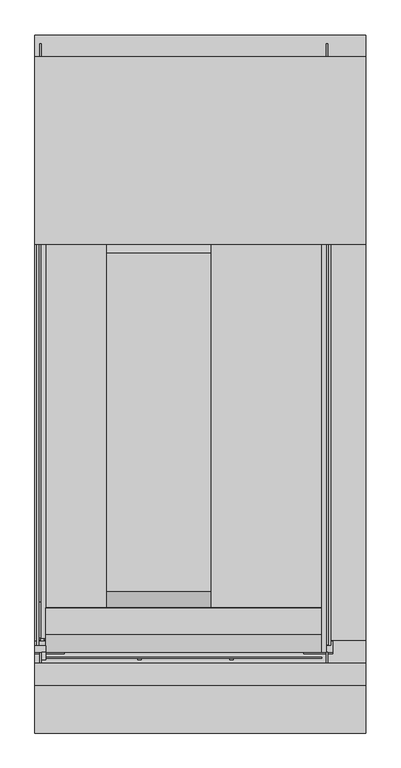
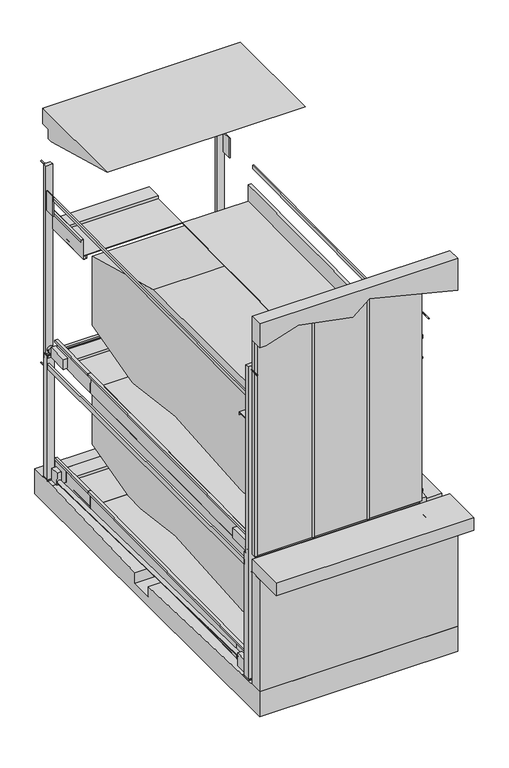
"""IFC4 building model written with IfcOpenShell, lengths in millimetres: proxy geometry, TrendVario_6300 : TrendVario_6300."""

from ifc_helpers import new_model, si_unit, point, frame, frame_2d, origin, origin_with_axes, place, context, project, spatial, polyline, circle_curve, trimmed, segment, composite_curve, outline, extrude, faceted_brep, source, transform, mapped, element, save
from ifc_brep_helpers import plane_surface, cylinder_surface, advanced_brep


def generic_models_72f7ff9a(model_context):
    return source(origin(), model_context, "Body", "SolidModel", [
        extrude(outline(composite_curve([segment(trimmed(circle_curve(frame_2d((-273.0, 50.2890841)), 6.0), [point((-273.0, 44.2890841))], [point((-273.0, 56.2890841))], False, "CARTESIAN"), True, "CONTINUOUS"), segment(trimmed(circle_curve(frame_2d((-273.0, 50.2890841)), 6.0), [point((-273.0, 56.2890841))], [point((-273.0, 44.2890841))], False, "CARTESIAN"), True, "CONTINUOUS")], self_intersect=False)), frame((0.0, 5472.5930875, 0.0), z_axis=(0.0, 1.0, 0.0), x_axis=(0.0, 0.0, 1.0)), (0.0, 0.0, 1.0), 150.0),
        extrude(outline(composite_curve([segment(trimmed(circle_curve(frame_2d((-273.0, 2650.0)), 6.0), [point((-267.0, 2650.0))], [point((-279.0, 2650.0))], False, "CARTESIAN"), True, "CONTINUOUS"), segment(trimmed(circle_curve(frame_2d((-273.0, 2650.0)), 6.0), [point((-279.0, 2650.0))], [point((-267.0, 2650.0))], False, "CARTESIAN"), True, "CONTINUOUS")], self_intersect=False)), frame((0.0, 5469.6007019, 0.0), z_axis=(0.0, 1.0, 0.0), x_axis=(0.0, 0.0, 1.0)), (0.0, 0.0, 1.0), 150.0),
        extrude(outline(composite_curve([segment(trimmed(circle_curve(frame_2d((-273.0, 2650.0)), 6.0), [point((-267.0, 2650.0))], [point((-279.0, 2650.0))], False, "CARTESIAN"), True, "CONTINUOUS"), segment(trimmed(circle_curve(frame_2d((-273.0, 2650.0)), 6.0), [point((-279.0, 2650.0))], [point((-267.0, 2650.0))], False, "CARTESIAN"), True, "CONTINUOUS")], self_intersect=False)), frame((0.0, -50.0, 0.0), z_axis=(0.0, 1.0, 0.0), x_axis=(0.0, 0.0, 1.0)), (0.0, 0.0, 1.0), 150.0),
        extrude(outline(composite_curve([segment(trimmed(circle_curve(frame_2d((-273.0, 50.0)), 6.0), [point((-273.0, 56.0))], [point((-273.0, 44.0))], False, "CARTESIAN"), True, "CONTINUOUS"), segment(trimmed(circle_curve(frame_2d((-273.0, 50.0)), 6.0), [point((-273.0, 44.0))], [point((-273.0, 56.0))], False, "CARTESIAN"), True, "CONTINUOUS")], self_intersect=False)), frame((0.0, -50.0, 0.0), z_axis=(0.0, 1.0, 0.0), x_axis=(0.0, 0.0, 1.0)), (0.0, 0.0, 1.0), 150.0),
        extrude(outline(composite_curve([segment(trimmed(circle_curve(frame_2d((145.0, 150.0)), 6.0), [point((139.0, 150.0))], [point((151.0, 150.0))], False, "CARTESIAN"), True, "CONTINUOUS"), segment(trimmed(circle_curve(frame_2d((145.0, 150.0)), 6.0), [point((151.0, 150.0))], [point((139.0, 150.0))], False, "CARTESIAN"), True, "CONTINUOUS")], self_intersect=False)), frame((0.0, 0.0, -2150.0), z_axis=(0.0, 0.0, 1.0), x_axis=(1.0, 0.0, 0.0)), (0.0, 0.0, 1.0), 150.0),
        extrude(outline(composite_curve([segment(trimmed(circle_curve(frame_2d((2555.0, 150.0)), 6.0), [point((2549.0, 150.0))], [point((2561.0, 150.0))], False, "CARTESIAN"), True, "CONTINUOUS"), segment(trimmed(circle_curve(frame_2d((2555.0, 150.0)), 6.0), [point((2561.0, 150.0))], [point((2549.0, 150.0))], False, "CARTESIAN"), True, "CONTINUOUS")], self_intersect=False)), frame((0.0, 0.0, -2150.0), z_axis=(0.0, 0.0, 1.0), x_axis=(1.0, 0.0, 0.0)), (0.0, 0.0, 1.0), 150.0),
        extrude(outline(composite_curve([segment(trimmed(circle_curve(frame_2d((2555.0, 5422.5930852)), 6.0), [point((2549.0, 5422.5930852))], [point((2561.0, 5422.5930852))], False, "CARTESIAN"), True, "CONTINUOUS"), segment(trimmed(circle_curve(frame_2d((2555.0, 5422.5930852)), 6.0), [point((2561.0, 5422.5930852))], [point((2549.0, 5422.5930852))], False, "CARTESIAN"), True, "CONTINUOUS")], self_intersect=False)), frame((0.0, 0.0, -2150.0), z_axis=(0.0, 0.0, 1.0), x_axis=(1.0, 0.0, 0.0)), (0.0, 0.0, 1.0), 150.0),
        extrude(outline(polyline([(320.0, 0.0), (3.0, 0.0), (3.0, -49.0), (49.9999999, -49.0), (49.9999999, -89.0), (47.0, -89.0), (47.0, -52.0), (0.0, -52.0), (0.0, 3.0), (317.0, 3.0), (317.0, 40.0), (290.0, 40.0), (290.0, 43.0), (320.0, 43.0), (320.0, 0.0)])), frame((2600.0, 237.7412679, -1960.4094164), z_axis=(0.0, 0.9999619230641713, 0.008726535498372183), x_axis=(0.0, -0.008726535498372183, 0.9999619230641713)), (0.0, 0.0, 1.0), 4178.0),
        extrude(outline(polyline([(1941.867435, 0.0), (1941.867435, -1000.0), (-1962.132565, -1000.0), (-1962.132565, 0.0), (1941.867435, 0.0)])), frame((1600.0, 2473.3523611, -1890.89763), z_axis=(0.0, -0.008726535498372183, 0.9999619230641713), x_axis=(0.0, 0.9999619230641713, 0.008726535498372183)), (0.0, 0.0, 1.0), 8.0),
        extrude(outline(polyline([(0.0, -136.0000001), (0.0, 0.0), (67.0, 0.0), (67.0, -136.0000001), (0.0, -136.0000001)])), frame((20.0, 5291.8106638, -1946.3080138), z_axis=(0.0, -0.008726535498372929, 0.9999619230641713), x_axis=(1.0, 0.0, 0.0)), (0.0, 0.0, 1.0), 195.0),
        extrude(outline(polyline([(5313.4099527, -1671.1090481), (5316.1588114, -1986.0970538), (5181.1639517, -1987.2751361), (5044.9910098, -1853.4583588), (5042.809376, -1603.467878), (5282.8002375, -1601.3735095), (5283.411095, -1671.3708441), (5313.4099527, -1671.1090481)])), frame((87.0, 0.0, 0.0), z_axis=(1.0, 0.0, 0.0), x_axis=(0.0, 1.0, 0.0)), (0.0, 0.0, 1.0), 10.0),
        extrude(outline(polyline([(0.0, -1500.0), (0.0, 0.0), (870.0, 0.0), (870.0, -1500.0), (0.0, -1500.0)])), frame((100.0, 4415.1458963, -1873.955505), z_axis=(0.0, -0.008726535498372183, 0.9999619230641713), x_axis=(0.0, 0.9999619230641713, 0.008726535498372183)), (0.0, 0.0, 1.0), 8.0),
        extrude(outline(polyline([(5046.6680519, -1816.4423146), (5284.6589896, -1814.3653991), (5285.0429571, -1858.3637238), (5282.0430713, -1858.3899034), (5281.6852834, -1817.3914645), (5049.6941172, -1819.4160207), (5050.0519052, -1860.4144596), (5047.0520194, -1860.4406392), (5046.6680519, -1816.4423146)])), frame((100.0, 0.0, 0.0), z_axis=(1.0, 0.0, 0.0), x_axis=(0.0, 1.0, 0.0)), (0.0, 0.0, 1.0), 1500.0),
        extrude(outline(polyline([(320.0, 0.0), (320.0, -43.0), (290.0, -43.0), (290.0, -40.0), (317.0, -40.0), (317.0, -3.0), (0.0, -3.0), (0.0, 52.0), (47.0, 52.0), (47.0, 89.0), (50.0, 89.0), (50.0, 49.0), (3.0, 49.0), (3.0, 0.0), (320.0, 0.0)])), frame((100.0, 4415.5822231, -1923.9536012), z_axis=(0.0, 0.9999619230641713, 0.008726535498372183), x_axis=(0.0, -0.008726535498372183, 0.9999619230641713)), (0.0, 0.0, 1.0), 870.0),
        extrude(outline(polyline([(320.0, 0.0), (3.0, 0.0), (3.0, -49.0), (49.9999999, -49.0), (49.9999999, -89.0), (47.0, -89.0), (47.0, -52.0), (0.0, -52.0), (0.0, 3.0), (317.0, 3.0), (317.0, 40.0), (290.0, 40.0), (290.0, 43.0), (320.0, 43.0), (320.0, 0.0)])), frame((2600.0, 232.7875414, -73.2083418), z_axis=(0.0, 0.9999619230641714, 0.008726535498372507), x_axis=(0.0, -0.008726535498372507, 0.9999619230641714)), (0.0, 0.0, 1.0), 4178.0),
        extrude(outline(polyline([(1941.867435, 0.0), (1941.867435, -1000.0), (-1962.132565, -1000.0), (-1962.132565, 0.0), (1941.867435, 0.0)])), frame((1600.0, 2468.3986345, -3.6965555), z_axis=(0.0, -0.008726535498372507, 0.9999619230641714), x_axis=(0.0, 0.9999619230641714, 0.008726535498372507)), (0.0, 0.0, 1.0), 8.0),
        extrude(outline(polyline([(0.0, -1500.0), (0.0, 0.0), (870.0, 0.0), (870.0, -1500.0), (0.0, -1500.0)])), frame((100.0, 4409.6919355, 13.2448545), z_axis=(0.0, -0.008726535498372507, 0.9999619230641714), x_axis=(0.0, 0.9999619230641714, 0.008726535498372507)), (0.0, 0.0, 1.0), 8.0),
        extrude(outline(polyline([(5041.2140911, 70.758045), (5279.2050288, 72.8349604), (5279.5889963, 28.8366358), (5276.5891105, 28.8104562), (5276.2313226, 69.808895), (5044.2401564, 67.7843388), (5044.5979444, 26.7859), (5041.5980586, 26.7597203), (5041.2140911, 70.758045)])), frame((100.0, 0.0, 0.0), z_axis=(1.0, 0.0, 0.0), x_axis=(0.0, 1.0, 0.0)), (0.0, 0.0, 1.0), 1500.0),
        extrude(outline(polyline([(320.0, 0.0), (320.0, -43.0), (290.0, -43.0), (290.0, -40.0), (317.0, -40.0), (317.0, -3.0), (0.0, -3.0), (0.0, 52.0), (47.0, 52.0), (47.0, 89.0), (49.9999999, 89.0), (49.9999999, 49.0), (2.9999999, 49.0), (2.9999999, 0.0), (320.0, 0.0)])), frame((100.0, 4410.1282623, -36.7532416), z_axis=(0.0, 0.9999619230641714, 0.008726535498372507), x_axis=(0.0, -0.008726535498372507, 0.9999619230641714)), (0.0, 0.0, 1.0), 870.0),
        extrude(outline(composite_curve([segment(trimmed(circle_curve(frame_2d((145.0, 5422.5930852)), 6.0), [point((139.0, 5422.5930852))], [point((151.0, 5422.5930852))], False, "CARTESIAN"), True, "CONTINUOUS"), segment(trimmed(circle_curve(frame_2d((145.0, 5422.5930852)), 6.0), [point((151.0, 5422.5930852))], [point((139.0, 5422.5930852))], False, "CARTESIAN"), True, "CONTINUOUS")], self_intersect=False)), frame((0.0, 0.0, -2150.0), z_axis=(0.0, 0.0, 1.0), x_axis=(1.0, 0.0, 0.0)), (0.0, 0.0, 1.0), 150.0),
        extrude(outline(composite_curve([segment(trimmed(circle_curve(frame_2d((2965.0, 2650.0)), 6.0), [point((2965.0, 2644.0))], [point((2965.0, 2656.0))], False, "CARTESIAN"), True, "CONTINUOUS"), segment(trimmed(circle_curve(frame_2d((2965.0, 2650.0)), 6.0), [point((2965.0, 2656.0))], [point((2965.0, 2644.0))], False, "CARTESIAN"), True, "CONTINUOUS")], self_intersect=False)), frame((0.0, -50.0, 0.0), z_axis=(0.0, 1.0, 0.0), x_axis=(0.0, 0.0, 1.0)), (0.0, 0.0, 1.0), 150.0),
        extrude(outline(composite_curve([segment(trimmed(circle_curve(frame_2d((2965.0, 50.0)), 6.0), [point((2965.0, 44.0))], [point((2965.0, 56.0))], False, "CARTESIAN"), True, "CONTINUOUS"), segment(trimmed(circle_curve(frame_2d((2965.0, 50.0)), 6.0), [point((2965.0, 56.0))], [point((2965.0, 44.0))], False, "CARTESIAN"), True, "CONTINUOUS")], self_intersect=False)), frame((0.0, -50.0, 0.0), z_axis=(0.0, 1.0, 0.0), x_axis=(0.0, 0.0, 1.0)), (0.0, 0.0, 1.0), 150.0),
        extrude(outline(composite_curve([segment(trimmed(circle_curve(frame_2d((2965.0, 50.0)), 6.0), [point((2965.0, 44.0))], [point((2965.0, 56.0))], False, "CARTESIAN"), True, "CONTINUOUS"), segment(trimmed(circle_curve(frame_2d((2965.0, 50.0)), 6.0), [point((2965.0, 56.0))], [point((2965.0, 44.0))], False, "CARTESIAN"), True, "CONTINUOUS")], self_intersect=False)), frame((0.0, 5469.5778576, 0.0), z_axis=(0.0, 1.0, 0.0), x_axis=(0.0, 0.0, 1.0)), (0.0, 0.0, 1.0), 150.0),
        extrude(outline(composite_curve([segment(trimmed(circle_curve(frame_2d((2965.0, 2650.0)), 6.0), [point((2965.0, 2644.0))], [point((2965.0, 2656.0))], False, "CARTESIAN"), True, "CONTINUOUS"), segment(trimmed(circle_curve(frame_2d((2965.0, 2650.0)), 6.0), [point((2965.0, 2656.0))], [point((2965.0, 2644.0))], False, "CARTESIAN"), True, "CONTINUOUS")], self_intersect=False)), frame((0.0, 5469.6007019, 0.0), z_axis=(0.0, 1.0, 0.0), x_axis=(0.0, 0.0, 1.0)), (0.0, 0.0, 1.0), 150.0),
        extrude(outline(polyline([(2133.867435, 0.0), (2133.867435, -1000.0), (-1962.132565, -1000.0), (-1962.132565, 0.0), (2133.867435, 0.0)])), frame((1600.0, 2468.3986345, 2016.3034445), z_axis=(0.0, -0.008726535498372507, 0.9999619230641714), x_axis=(0.0, 0.9999619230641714, 0.008726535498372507)), (0.0, 0.0, 1.0), 8.0),
        extrude(outline(polyline([(0.0, -60.0), (0.0, 0.0), (4430.0, 0.0), (4430.0, -60.0), (0.0, -60.0)])), frame((2611.0, 171.9869847, 2038.264563), z_axis=(0.0, -0.008726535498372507, 0.9999619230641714), x_axis=(0.0, 0.9999619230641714, 0.008726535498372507)), (0.0, 0.0, 1.0), 100.0),
        extrude(outline(polyline([(0.0, -19.0), (0.0, 0.0), (4430.0, 0.0), (4430.0, -19.0), (0.0, -19.0)])), frame((2663.0, 167.9116926, 2505.246781), z_axis=(0.0, -0.008726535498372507, 0.9999619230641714), x_axis=(0.0, 0.9999619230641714, 0.008726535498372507)), (0.0, 0.0, 1.0), 56.0),
        faceted_brep([(2600.0, 4599.8286538, 2304.9144337), (2643.0, 4599.8286538, 2304.9144337), (2643.0, 4600.0904499, 2274.915576), (2640.0, 4600.0904499, 2274.915576), (2640.0, 4599.8548334, 2301.9145479), (2603.0, 4599.8548334, 2301.9145479), (2603.0, 4602.6211451, 1984.9266183), (2548.0, 4602.6211451, 1984.9266183), (2548.0, 4602.210998, 2031.9248287), (2511.0, 4602.210998, 2031.9248287), (2511.0, 4602.1848184, 2034.9247145), (2551.0, 4602.1848184, 2034.9247145), (2551.0, 4602.5949655, 1987.9265041), (2600.0, 4602.5949655, 1987.9265041), (2603.0, 102.7924914, 1945.6572086), (2603.0, 100.0261796, 2262.6451382), (2640.0, 100.0261796, 2262.6451382), (2640.0, 100.2617961, 2235.6461663), (2643.0, 100.2617961, 2235.6461663), (2643.0, 100.0, 2265.645024), (2600.0, 100.0, 2265.645024), (2600.0, 102.7924914, 1945.6572086), (2600.0, 202.7886837, 1946.5298621), (2548.0, 202.7886837, 1946.5298621), (2548.0, 202.3785365, 1993.5280725), (2511.0, 202.3785365, 1993.5280725), (2511.0, 202.3523569, 1996.5279583), (2551.0, 202.3523569, 1996.5279583), (2551.0, 202.7625041, 1949.5297479), (2600.0, 202.7625041, 1949.5297479)], [[[0, 1, 2, 3, 4, 5, 6, 7, 8, 9, 10, 11, 12, 13]], [[14, 15, 16, 17, 18, 19, 20, 21]], [[1, 0, 20, 19]], [[2, 1, 19, 18]], [[3, 2, 18, 17]], [[4, 3, 17, 16]], [[5, 4, 16, 15]], [[6, 5, 15, 14]], [[7, 6, 14, 21, 22, 23]], [[8, 7, 23, 24]], [[9, 8, 24, 25]], [[10, 9, 25, 26]], [[11, 10, 26, 27]], [[12, 11, 27, 28]], [[13, 12, 28, 29]], [[0, 13, 29, 22, 21, 20]], [[22, 29, 28, 27, 26, 25, 24, 23]]]),
        extrude(outline(polyline([(0.0, -1500.0), (0.0, 0.0), (869.9999999, 0.0), (869.9999999, -1500.0), (0.0, -1500.0)])), frame((100.0, 4602.1898877, 2034.9247587), z_axis=(0.0, -0.008726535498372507, 0.9999619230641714), x_axis=(0.0, 0.9999619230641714, 0.008726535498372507)), (0.0, 0.0, 1.0), 8.0),
        extrude(outline(polyline([(5233.7120432, 2092.4379491), (5471.7029809, 2094.5148646), (5472.0869485, 2050.51654), (5469.0870627, 2050.4903604), (5468.7292747, 2091.4887992), (5236.7381086, 2089.464243), (5237.0958965, 2048.4658041), (5234.0960108, 2048.4396245), (5233.7120432, 2092.4379491)])), frame((100.0, 0.0, 0.0), z_axis=(1.0, 0.0, 0.0), x_axis=(0.0, 1.0, 0.0)), (0.0, 0.0, 1.0), 1500.0),
        extrude(outline(polyline([(319.9999999, 0.0), (319.9999999, -43.0), (289.9999999, -43.0), (289.9999999, -40.0), (317.0, -40.0), (317.0, -3.0), (0.0, -3.0), (0.0, 52.0), (46.9999999, 52.0), (46.9999999, 89.0), (49.9999999, 89.0), (49.9999999, 49.0), (2.9999999, 49.0), (2.9999999, 0.0), (319.9999999, 0.0)])), frame((100.0, 4602.6262144, 1984.9266626), z_axis=(0.0, 0.9999619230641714, 0.008726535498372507), x_axis=(0.0, -0.008726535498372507, 0.9999619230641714)), (0.0, 0.0, 1.0), 870.0),
        extrude(outline(polyline([(5699.992384, -2000.0), (5699.992384, -2400.0), (-200.0, -2400.0), (-200.0, -2000.0), (250.0, -2000.0), (2725.0057083, -2086.4291038), (2725.0057083, -2247.5791163), (3075.0057083, -2247.5791163), (3075.0057083, -2075.9522084), (5249.9923858, -2000.0), (5699.992384, -2000.0)])), frame((0.0, 0.0, 0.0), z_axis=(1.0, 0.0, 0.0), x_axis=(0.0, 1.0, 0.0)), (0.0, 0.0, 1.0), 3000.0),
        extrude(outline(polyline([(0.0, 5369.5930875), (30.0, 5369.5930875), (30.0, 200.0), (0.0, 200.0), (0.0, 5369.5930875)])), frame((0.0, 0.0, -200.0), z_axis=(0.0, 0.0, 1.0), x_axis=(1.0, 0.0, 0.0)), (0.0, 0.0, 1.0), 80.0),
        extrude(outline(polyline([(264.0, 210.0), (264.0, 90.0), (0.0, 90.0), (0.0, 210.0), (264.0, 210.0)])), frame((0.0, 0.0, -2000.0), z_axis=(0.0, 0.0, 1.0), x_axis=(1.0, 0.0, 0.0)), (0.0, 0.0, 1.0), 18.0),
        extrude(outline(polyline([(264.0, 5482.5930875), (264.0, 5359.5930875), (0.0, 5359.5930875), (0.0, 5482.5930875), (264.0, 5482.5930875)])), frame((0.0, 0.0, -2000.0), z_axis=(0.0, 0.0, 1.0), x_axis=(1.0, 0.0, 0.0)), (0.0, 0.0, 1.0), 18.0),
        extrude(outline(polyline([(2436.3569556, 5479.6007019), (2700.3569556, 5479.6007019), (2700.3569556, 5359.6007019), (2436.3569556, 5359.6007019), (2436.3569556, 5479.6007019)])), frame((0.0, 0.0, -2000.0), z_axis=(0.0, 0.0, 1.0), x_axis=(1.0, 0.0, 0.0)), (0.0, 0.0, 1.0), 18.0),
        extrude(outline(polyline([(2436.0, 90.0), (2436.0, 210.0), (2700.0, 210.0), (2700.0, 90.0), (2436.0, 90.0)])), frame((0.0, 0.0, -2000.0), z_axis=(0.0, 0.0, 1.0), x_axis=(1.0, 0.0, 0.0)), (0.0, 0.0, 1.0), 18.0),
        extrude(outline(composite_curve([segment(trimmed(circle_curve(frame_2d((-34.8939913, -3.2601796)), 30.0), [point((-64.8939913, -3.2601796))], [point((-4.8939913, -3.2601796))], False, "CARTESIAN"), True, "CONTINUOUS"), segment(trimmed(circle_curve(frame_2d((-34.8939913, -3.2601796)), 30.0), [point((-4.8939913, -3.2601796))], [point((-64.8939913, -3.2601796))], False, "CARTESIAN"), True, "CONTINUOUS")], self_intersect=False)), frame((20.0, 5155.4453642, -1905.0422399), z_axis=(0.0, -0.9997806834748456, 0.02094241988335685), x_axis=(-1.0, 0.0, 0.0)), (0.0, 0.0, 1.0), 4742.7442584),
        extrude(outline(composite_curve([segment(trimmed(circle_curve(frame_2d((39.6709454, 48.2295862)), 30.0), [point((9.6709454, 48.2295862))], [point((69.6709454, 48.2295862))], False, "CARTESIAN"), True, "CONTINUOUS"), segment(trimmed(circle_curve(frame_2d((39.6709454, 48.2295862)), 30.0), [point((69.6709454, 48.2295862))], [point((9.6709454, 48.2295862))], False, "CARTESIAN"), True, "CONTINUOUS")], self_intersect=False)), frame((2603.0, 5155.7604458, -1941.1470144), z_axis=(0.0, -0.9997806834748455, 0.020942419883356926), x_axis=(1.0, 0.0, 0.0)), (0.0, 0.0, 1.0), 4743.0440414),
        faceted_brep([(2670.0, 210.0, -120.0), (2670.0, 210.0, -200.0), (3000.0, 210.0, -200.0), (3000.0, 210.0, -120.0), (3000.0, 5359.6007019, -120.0), (3000.0, 5359.6007019, -200.0), (2673.0, 5359.6007019, -200.0), (2673.0, 5359.6007019, -120.0), (2670.0, 232.7875088, -120.0), (2670.0, 232.7875088, -200.0), (2670.0, 5357.5889979, -120.0), (2670.0, 5336.1530625, -200.0), (2670.0, 254.2234442, -200.0), (2673.0, 232.7875088, -200.0), (2673.0, 254.2234442, -200.0), (2673.0, 5336.1530625, -200.0), (2673.0, 5357.5889979, -120.0), (2673.0, 232.7875088, -120.0)], [[[0, 1, 2, 3]], [[4, 5, 6, 7]], [[1, 0, 8, 9]], [[10, 11, 12, 8]], [[2, 1, 9, 13, 14, 12, 11, 15, 6, 5]], [[3, 2, 5, 4]], [[0, 3, 4, 7, 16, 10, 8]], [[15, 16, 7, 6]], [[16, 15, 11, 10]], [[17, 14, 13]], [[8, 17, 13, 9]], [[17, 8, 12, 14]]]),
        extrude(outline(polyline([(2700.0, 5369.6007019), (2600.0, 5369.6007019), (2600.0, 5469.6007019), (2700.0, 5469.6007019), (2700.0, 5369.6007019)])), frame((0.0, 0.0, -2000.0), z_axis=(0.0, 0.0, 1.0), x_axis=(1.0, 0.0, 0.0)), (0.0, 0.0, 1.0), 2000.0),
        extrude(outline(polyline([(237.7566323, -1940.8501873), (236.1472757, -1756.4361785), (413.7566323, -1756.4361785), (413.7566323, -1939.3142585), (237.7566323, -1940.8501873)])), frame((2613.0, 0.0, 0.0), z_axis=(1.0, 0.0, 0.0), x_axis=(0.0, 1.0, 0.0)), (0.0, 0.0, 1.0), 70.0),
        extrude(outline(polyline([(237.7412679, -1960.4094164), (235.9626972, -1756.6053926), (413.7412679, -1756.6053926), (413.7412679, -1958.8734877), (237.7412679, -1960.4094164)])), frame((20.0, 0.0, 0.0), z_axis=(1.0, 0.0, 0.0), x_axis=(0.0, 1.0, 0.0)), (0.0, 0.0, 1.0), 70.0),
        extrude(outline(polyline([(0.0, -136.0000001), (0.0, 0.0), (67.0, 0.0), (67.0, -136.0000001), (0.0, -136.0000001)])), frame((2610.0, 5291.8106638, -1946.3080138), z_axis=(0.0, -0.008726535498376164, 0.9999619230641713), x_axis=(1.0, 0.0, 0.0)), (0.0, 0.0, 1.0), 195.0),
        extrude(outline(polyline([(2600.0, 200.0), (2700.0, 200.0), (2700.0, 100.0), (2600.0, 100.0), (2600.0, 200.0)])), frame((0.0, 0.0, -2000.0), z_axis=(0.0, 0.0, 1.0), x_axis=(1.0, 0.0, 0.0)), (0.0, 0.0, 1.0), 2000.0),
        extrude(outline(composite_curve([segment(polyline([(5320.048845, -585.9914336), (5320.048845, -1335.9999998), (5318.0564576, -1335.9999998), (5318.0564576, -1608.1402276), (4313.3699728, -1877.3451599)]), True, "CONTINUOUS"), segment(trimmed(circle_curve(frame_2d((4247.6299354, -1632.0)), 254.0), [point((4313.3699728, -1877.3451599))], [point((4224.7221662, -1884.9648871))], False, "CARTESIAN"), True, "CONTINUOUS"), segment(polyline([(4224.7221662, -1884.9648871), (3145.3807126, -1751.0), (1424.180165, -1884.6085614)]), True, "CONTINUOUS"), segment(trimmed(circle_curve(frame_2d((1397.6299354, -1632.0)), 254.0), [point((1424.180165, -1884.6085614))], [point((1340.4923675, -1879.4899965))], False, "CARTESIAN"), True, "CONTINUOUS"), segment(polyline([(1340.4923675, -1879.4899965), (320.456461, -1643.9961518), (320.456461, -689.5033287), (622.3673675, -136.0), (3720.0793025, -135.9999998), (5320.048845, -585.9914336)]), True, "CONTINUOUS")], self_intersect=False)), frame((650.0, 0.0, 0.0), z_axis=(1.0, 0.0, 0.0), x_axis=(0.0, 1.0, 0.0)), (0.0, 0.0, 1.0), 1900.0),
        extrude(outline(polyline([(3000.0, -200.0), (0.0, -200.0), (0.0, 0.0), (3000.0, 0.0), (3000.0, -200.0)])), frame((0.0, 0.0, -2000.0), z_axis=(0.0, 0.0, 1.0), x_axis=(1.0, 0.0, 0.0)), (0.0, 0.0, 1.0), 1800.0),
        faceted_brep([(100.0, 4412.2895056, -1603.966424), (100.0, 4415.0558174, -1920.9543536), (149.0, 4415.0558174, -1920.9543536), (149.0, 4414.6456702, -1873.9561432), (189.0, 4414.6456702, -1873.9561432), (189.0, 4414.6718498, -1876.956029), (152.0, 4414.6718498, -1876.956029), (152.0, 4415.081997, -1923.9542393), (97.0, 4415.081997, -1923.9542393), (97.0, 4412.3156852, -1606.9663097), (60.0, 4412.3156852, -1606.9663097), (60.0, 4412.5513017, -1633.9652817), (57.0, 4412.5513017, -1633.9652817), (57.0, 4412.2895056, -1603.966424), (100.0, 237.741276, -1960.4093395), (100.0, 234.9487847, -1640.4215242), (57.0, 234.9487847, -1640.4215242), (57.0, 235.2105807, -1670.4203818), (60.0, 235.2105807, -1670.4203818), (60.0, 234.9749643, -1643.4214099), (97.0, 234.9749643, -1643.4214099), (97.0, 237.741276, -1960.4093395), (100.0, 337.7374683, -1959.536686), (100.0, 337.7112887, -1956.5368002), (149.0, 337.7112887, -1956.5368002), (149.0, 337.3011416, -1909.5385898), (189.0, 337.3011416, -1909.5385898), (189.0, 337.3273212, -1912.5384756), (152.0, 337.3273212, -1912.5384756), (152.0, 337.7374683, -1959.536686)], [[[0, 1, 2, 3, 4, 5, 6, 7, 8, 9, 10, 11, 12, 13]], [[14, 15, 16, 17, 18, 19, 20, 21]], [[1, 0, 15, 14, 22, 23]], [[2, 1, 23, 24]], [[3, 2, 24, 25]], [[4, 3, 25, 26]], [[5, 4, 26, 27]], [[6, 5, 27, 28]], [[7, 6, 28, 29]], [[8, 7, 29, 22, 14, 21]], [[9, 8, 21, 20]], [[10, 9, 20, 19]], [[11, 10, 19, 18]], [[12, 11, 18, 17]], [[13, 12, 17, 16]], [[0, 13, 16, 15]], [[23, 22, 29, 28, 27, 26, 25, 24]]]),
        extrude(outline(polyline([(556.8174373, -1957.6248809), (237.7412679, -1960.4094164), (235.9626972, -1756.6053926), (322.913076, -1669.6550138), (556.8174373, -1667.6137613), (556.8174373, -1957.6248809)])), frame((90.0, 0.0, 0.0), z_axis=(1.0, 0.0, 0.0), x_axis=(0.0, 1.0, 0.0)), (0.0, 0.0, 1.0), 10.0),
        extrude(outline(polyline([(342.6444987, -1649.9235911), (556.8174373, -1648.0545322), (556.8174373, -1938.0656517), (237.7412679, -1940.8501873), (236.1319113, -1756.4361785), (342.6444987, -1649.9235911)])), frame((2603.0, 0.0, 0.0), z_axis=(1.0, 0.0, 0.0), x_axis=(0.0, 1.0, 0.0)), (0.0, 0.0, 1.0), 10.0),
        extrude(outline(polyline([(5282.7827844, -1599.3735857), (5283.411095, -1671.3708441), (5313.4099527, -1671.1090481), (5316.1588114, -1986.0970538), (5181.1639517, -1987.2751361), (5044.9910098, -1853.4583588), (5042.7919229, -1601.4679542), (5282.7827844, -1599.3735857)])), frame((2600.0, 0.0, 0.0), z_axis=(1.0, 0.0, 0.0), x_axis=(0.0, 1.0, 0.0)), (0.0, 0.0, 1.0), 10.0),
        extrude(outline(polyline([(2600.0, 511.2945081), (2600.0, 241.2945081), (100.0, 241.2945081), (100.0, 511.2945081), (2600.0, 511.2945081)])), frame((0.0, 0.0, -1888.4610204), z_axis=(0.0, 0.0, 1.0), x_axis=(1.0, 0.0, 0.0)), (0.0, 0.0, 1.0), 30.0),
        extrude(outline(polyline([(319.9999232, -43.0), (2.9999232, -43.0), (2.9999232, -92.0), (49.9999231, -92.0), (49.9999231, -132.0), (46.9999232, -132.0), (46.9999232, -95.0), (-7.68e-05, -95.0), (-7.68e-05, -40.0), (316.9999232, -40.0), (316.9999232, -3.0), (289.9999232, -3.0), (289.9999232, 0.0), (319.9999232, 0.0), (319.9999232, -43.0)])), frame((2643.0, 4415.5821906, -1923.9498742), z_axis=(0.0, 0.9999619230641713, 0.008726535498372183), x_axis=(0.0, -0.008726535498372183, 0.9999619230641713)), (0.0, 0.0, 1.0), 881.0149678),
        extrude(outline(polyline([(100.4126792, 0.0), (100.4126792, -870.5002127), (-899.5873208, -870.5002127), (-899.5873208, 0.0), (100.4126792, 0.0)])), frame((2499.5873208, 5285.1127694, -1866.3634191), z_axis=(0.0, -0.008726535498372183, 0.9999619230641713), x_axis=(1.0, 0.0, 0.0)), (0.0, 0.0, 1.0), 8.0),
        extrude(outline(polyline([(5287.3947785, -1814.337797), (5287.7787461, -1858.3361216), (5284.7788603, -1858.3623013), (5284.4210724, -1817.3638624), (5052.4299062, -1819.3884186), (5052.7876942, -1860.3868575), (5049.7878084, -1860.4130371), (5049.4038408, -1816.4147125), (5287.3947785, -1814.337797)])), frame((1600.0, 0.0, 0.0), z_axis=(1.0, 0.0, 0.0), x_axis=(0.0, 1.0, 0.0)), (0.0, 0.0, 1.0), 1000.0),
        extrude(outline(polyline([(2038.9337722, 0.0), (2038.9337722, -1500.0), (-1864.3763713, -1500.0), (-1864.3763713, 0.0), (2038.9337722, 0.0)])), frame((1600.0, 2550.3403211, -1890.2294167), z_axis=(0.0, -0.008726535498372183, 0.9999619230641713), x_axis=(0.0, -0.9999619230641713, -0.008726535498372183)), (0.0, 0.0, 1.0), 8.0),
        extrude(outline(polyline([(555.3027268, 0.3516465), (235.3027268, -2.4409511), (235.3027268, 157.5651414), (555.3027268, 160.3577391), (555.3027268, 0.3516465)])), frame((30.0, 0.0, 0.0), z_axis=(1.0, 0.0, 0.0), x_axis=(0.0, 1.0, 0.0)), (0.0, 0.0, 1.0), 70.0),
        extrude(outline(polyline([(5327.0564576, 0.3516465), (5007.0564576, -2.4409511), (5007.0564576, 157.5651414), (5327.0564576, 160.3577391), (5327.0564576, 0.3516465)])), frame((30.0, 0.0, 0.0), z_axis=(1.0, 0.0, 0.0), x_axis=(0.0, 1.0, 0.0)), (0.0, 0.0, 1.0), 70.0),
        extrude(outline(composite_curve([segment(trimmed(circle_curve(frame_2d((73.3516465, 66.0)), 50.0), [point((73.3516465, 16.0))], [point((73.3516465, 116.0))], False, "CARTESIAN"), True, "CONTINUOUS"), segment(trimmed(circle_curve(frame_2d((73.3516465, 66.0)), 50.0), [point((73.3516465, 116.0))], [point((73.3516465, 16.0))], False, "CARTESIAN"), True, "CONTINUOUS")], self_intersect=False)), frame((0.0, 165.3027268, 0.0), z_axis=(0.0, 1.0, 0.0), x_axis=(0.0, 0.0, 1.0)), (0.0, 0.0, 1.0), 35.0),
        extrude(outline(composite_curve([segment(trimmed(circle_curve(frame_2d((73.3516465, 66.0)), 15.0), [point((73.3516465, 51.0))], [point((73.3516465, 81.0))], False, "CARTESIAN"), True, "CONTINUOUS"), segment(trimmed(circle_curve(frame_2d((73.3516465, 66.0)), 15.0), [point((73.3516465, 81.0))], [point((73.3516465, 51.0))], False, "CARTESIAN"), True, "CONTINUOUS")], self_intersect=False)), frame((0.0, 200.3027268, 0.0), z_axis=(0.0, 1.0, 0.0), x_axis=(0.0, 0.0, 1.0)), (0.0, 0.0, 1.0), 35.0),
        extrude(outline(composite_curve([segment(trimmed(circle_curve(frame_2d((73.3516465, 66.0)), 50.0), [point((73.3516465, 16.0))], [point((73.3516465, 116.0))], False, "CARTESIAN"), True, "CONTINUOUS"), segment(trimmed(circle_curve(frame_2d((73.3516465, 66.0)), 50.0), [point((73.3516465, 116.0))], [point((73.3516465, 16.0))], False, "CARTESIAN"), True, "CONTINUOUS")], self_intersect=False)), frame((0.0, 5372.0564576, 0.0), z_axis=(0.0, 1.0, 0.0), x_axis=(0.0, 0.0, 1.0)), (0.0, 0.0, 1.0), 35.0),
        extrude(outline(composite_curve([segment(trimmed(circle_curve(frame_2d((73.3516465, 66.0)), 15.0), [point((73.3516465, 51.0))], [point((73.3516465, 81.0))], False, "CARTESIAN"), True, "CONTINUOUS"), segment(trimmed(circle_curve(frame_2d((73.3516465, 66.0)), 15.0), [point((73.3516465, 81.0))], [point((73.3516465, 51.0))], False, "CARTESIAN"), True, "CONTINUOUS")], self_intersect=False)), frame((0.0, 5327.0564576, 0.0), z_axis=(0.0, 1.0, 0.0), x_axis=(0.0, 0.0, 1.0)), (0.0, 0.0, 1.0), 45.0),
        faceted_brep([(100.0, 4407.3357384, 283.2383007), (100.0, 4410.1020502, -33.7496289), (149.0, 4410.1020502, -33.7496289), (149.0, 4409.691903, 13.2485815), (189.0, 4409.691903, 13.2485815), (189.0, 4409.7180826, 10.2486957), (152.0, 4409.7180826, 10.2486957), (152.0, 4410.1282298, -36.7495147), (97.0, 4410.1282298, -36.7495147), (97.0, 4407.361918, 280.2384149), (60.0, 4407.361918, 280.2384149), (60.0, 4407.5975345, 253.239443), (57.0, 4407.5975345, 253.239443), (57.0, 4407.3357384, 283.2383007), (100.0, 232.7875088, -73.2046149), (100.0, 229.9950175, 246.7832005), (57.0, 229.9950175, 246.7832005), (57.0, 230.2568135, 216.7843428), (60.0, 230.2568135, 216.7843428), (60.0, 230.0211971, 243.7833147), (97.0, 230.0211971, 243.7833147), (97.0, 232.7875088, -73.2046149), (100.0, 332.7837011, -72.3319613), (100.0, 332.7575215, -69.3320755), (149.0, 332.7575215, -69.3320755), (149.0, 332.3473744, -22.3338652), (189.0, 332.3473744, -22.3338652), (189.0, 332.373554, -25.3337509), (152.0, 332.373554, -25.3337509), (152.0, 332.7837011, -72.3319613)], [[[0, 1, 2, 3, 4, 5, 6, 7, 8, 9, 10, 11, 12, 13]], [[14, 15, 16, 17, 18, 19, 20, 21]], [[1, 0, 15, 14, 22, 23]], [[2, 1, 23, 24]], [[3, 2, 24, 25]], [[4, 3, 25, 26]], [[5, 4, 26, 27]], [[6, 5, 27, 28]], [[7, 6, 28, 29]], [[8, 7, 29, 22, 14, 21]], [[9, 8, 21, 20]], [[10, 9, 20, 19]], [[11, 10, 19, 18]], [[12, 11, 18, 17]], [[13, 12, 17, 16]], [[0, 13, 16, 15]], [[23, 22, 29, 28, 27, 26, 25, 24]]]),
        extrude(outline(polyline([(555.3027268, 0.3516465), (235.3027268, -2.4409511), (235.3027268, 157.5651414), (555.3027268, 160.3577391), (555.3027268, 0.3516465)])), frame((2600.0, 0.0, 0.0), z_axis=(1.0, 0.0, 0.0), x_axis=(0.0, 1.0, 0.0)), (0.0, 0.0, 1.0), 70.0),
        extrude(outline(composite_curve([segment(trimmed(circle_curve(frame_2d((73.3516465, 2635.0)), 50.0), [point((73.3516465, 2685.0))], [point((73.3516465, 2585.0))], False, "CARTESIAN"), True, "CONTINUOUS"), segment(trimmed(circle_curve(frame_2d((73.3516465, 2635.0)), 50.0), [point((73.3516465, 2585.0))], [point((73.3516465, 2685.0))], False, "CARTESIAN"), True, "CONTINUOUS")], self_intersect=False)), frame((0.0, 165.3027268, 0.0), z_axis=(0.0, 1.0, 0.0), x_axis=(0.0, 0.0, 1.0)), (0.0, 0.0, 1.0), 35.0),
        extrude(outline(composite_curve([segment(trimmed(circle_curve(frame_2d((73.3516465, 2635.0)), 15.0), [point((73.3516465, 2650.0))], [point((73.3516465, 2620.0))], False, "CARTESIAN"), True, "CONTINUOUS"), segment(trimmed(circle_curve(frame_2d((73.3516465, 2635.0)), 15.0), [point((73.3516465, 2620.0))], [point((73.3516465, 2650.0))], False, "CARTESIAN"), True, "CONTINUOUS")], self_intersect=False)), frame((0.0, 200.3027268, 0.0), z_axis=(0.0, 1.0, 0.0), x_axis=(0.0, 0.0, 1.0)), (0.0, 0.0, 1.0), 35.0),
        extrude(outline(polyline([(0.0, 5377.3954888), (0.0, 5402.3954888), (3000.0, 5402.3954888), (3000.0, 5377.3954888), (0.0, 5377.3954888)])), frame((0.0, 0.0, 8.0), z_axis=(0.0, 0.0, 1.0), x_axis=(1.0, 0.0, 0.0)), (0.0, 0.0, 1.0), 15.0),
        extrude(outline(polyline([(5472.5930893, 0.0), (5472.5930893, -80.0), (5469.5930893, -80.0), (5469.5930893, -3.0), (5369.5930893, -3.0), (5369.5930893, -30.0), (5366.5930893, -30.0), (5366.5930893, 0.0), (5472.5930893, 0.0)])), frame((0.0, 0.0, 0.0), z_axis=(1.0, 0.0, 0.0), x_axis=(0.0, 1.0, 0.0)), (0.0, 0.0, 1.0), 3000.0),
        extrude(outline(composite_curve([segment(trimmed(circle_curve(frame_2d((73.3516465, 2635.0)), 50.0), [point((73.3516465, 2685.0))], [point((73.3516465, 2585.0))], False, "CARTESIAN"), True, "CONTINUOUS"), segment(trimmed(circle_curve(frame_2d((73.3516465, 2635.0)), 50.0), [point((73.3516465, 2585.0))], [point((73.3516465, 2685.0))], False, "CARTESIAN"), True, "CONTINUOUS")], self_intersect=False)), frame((0.0, 5372.0564576, 0.0), z_axis=(0.0, 1.0, 0.0), x_axis=(0.0, 0.0, 1.0)), (0.0, 0.0, 1.0), 35.0),
        extrude(outline(composite_curve([segment(trimmed(circle_curve(frame_2d((73.3516465, 2635.0)), 15.0), [point((73.3516465, 2650.0))], [point((73.3516465, 2620.0))], False, "CARTESIAN"), True, "CONTINUOUS"), segment(trimmed(circle_curve(frame_2d((73.3516465, 2635.0)), 15.0), [point((73.3516465, 2620.0))], [point((73.3516465, 2650.0))], False, "CARTESIAN"), True, "CONTINUOUS")], self_intersect=False)), frame((0.0, 5327.0564576, 0.0), z_axis=(0.0, 1.0, 0.0), x_axis=(0.0, 0.0, 1.0)), (0.0, 0.0, 1.0), 45.0),
        extrude(outline(polyline([(100.0, 32.0), (60.0, 32.0), (60.0, 100.0), (100.0, 100.0), (100.0, 32.0)])), origin_with_axes(), (0.0, 0.0, 1.0), 3526.0),
        extrude(outline(polyline([(506.3333687, 2021.7621074), (506.6824301, 1981.7636305), (503.6825444, 1981.7374509), (503.3596625, 2018.736042), (261.7372106, 2016.6274348), (105.9840281, 1973.4332545), (112.3977491, 1950.3061236), (133.5976191, 1956.1853679), (134.3993342, 1953.2944765), (110.3085729, 1946.6135171), (102.2914216, 1975.5224307), (261.3160886, 2019.623874), (506.3333687, 2021.7621074)])), frame((100.0, 0.0, 0.0), z_axis=(1.0, 0.0, 0.0), x_axis=(0.0, 1.0, 0.0)), (0.0, 0.0, 1.0), 2500.0),
        extrude(outline(polyline([(5327.0564576, 0.3516465), (5007.0564576, -2.4409511), (5007.0564576, 157.5651414), (5327.0564576, 160.3577391), (5327.0564576, 0.3516465)])), frame((2600.0, 0.0, 0.0), z_axis=(1.0, 0.0, 0.0), x_axis=(0.0, 1.0, 0.0)), (0.0, 0.0, 1.0), 70.0),
        extrude(outline(polyline([(506.3333687, 1.7621074), (506.6824301, -38.2363695), (503.6825444, -38.2625491), (503.3596625, -1.263958), (261.7372106, -3.3725652), (105.9840281, -46.5667455), (112.3977491, -69.6938764), (133.5976191, -63.8146321), (134.3993342, -66.7055235), (110.3085729, -73.3864829), (102.2914216, -44.4775693), (261.3160886, -0.376126), (506.3333687, 1.7621074)])), frame((100.0, 0.0, 0.0), z_axis=(1.0, 0.0, 0.0), x_axis=(0.0, 1.0, 0.0)), (0.0, 0.0, 1.0), 2500.0),
        extrude(outline(polyline([(319.9719043, 0.0), (2.9719044, 0.0), (2.9719044, -49.0), (49.9719044, -49.0), (49.9719044, -89.0), (46.9719043, -89.0), (46.9719043, -52.0), (-0.0280957, -52.0), (-0.0280957, 3.0), (316.9719043, 3.0), (316.9719043, 40.0), (289.9719043, 40.0), (289.9719043, 43.0), (319.9719043, 43.0), (319.9719043, 0.0)])), frame((2600.0, 4410.6284234, -36.7451495), z_axis=(0.0, 0.9999619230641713, 0.008726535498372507), x_axis=(0.0, -0.008726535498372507, 0.9999619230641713)), (0.0, 0.0, 1.0), 869.4997873),
        extrude(outline(polyline([(100.4126792, 0.0), (100.4126792, -867.2336149), (-899.5873208, -867.2336149), (-899.5873208, 0.0), (100.4126792, 0.0)])), frame((2499.5873208, 5276.8925288, 20.8127995), z_axis=(0.0, -0.008726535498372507, 0.9999619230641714), x_axis=(1.0, 0.0, 0.0)), (0.0, 0.0, 1.0), 8.0),
        extrude(outline(polyline([(5279.1745379, 72.8384216), (5279.5585055, 28.8400969), (5276.5586197, 28.8139173), (5276.2008318, 69.8123562), (5044.2096656, 67.7877999), (5044.5674536, 26.7893611), (5041.5675678, 26.7631815), (5041.1836002, 70.7615061), (5279.1745379, 72.8384216)])), frame((1600.0, 0.0, 0.0), z_axis=(1.0, 0.0, 0.0), x_axis=(0.0, 1.0, 0.0)), (0.0, 0.0, 1.0), 1000.0),
        extrude(outline(polyline([(2038.9337722, 0.0), (2038.9337722, -1500.0), (-1864.3763713, -1500.0), (-1864.3763713, 0.0), (2038.9337722, 0.0)])), frame((1600.0, 2545.3865539, -3.0246921), z_axis=(0.0, -0.008726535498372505, 0.9999619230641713), x_axis=(0.0, -0.9999619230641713, -0.008726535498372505)), (0.0, 0.0, 1.0), 8.0),
        extrude(outline(polyline([(0.0, -630.5625149), (0.0, 0.0), (3000.0, 0.0), (3000.0, -630.5625149), (0.0, -630.5625149)])), frame((0.0, 0.0, -200.0), z_axis=(0.0, 0.0, 1.0), x_axis=(1.0, 0.0, 0.0)), (0.0, 0.0, 1.0), 200.0),
        extrude(outline(polyline([(200.0, -2000.0), (100.0, -2000.0), (100.0, 3025.0), (160.0, 3025.0), (160.0, 8.0), (200.0, 8.0), (200.0, -2000.0)])), frame((0.0, 0.0, 0.0), z_axis=(1.0, 0.0, 0.0), x_axis=(0.0, 1.0, 0.0)), (0.0, 0.0, 1.0), 100.0),
        faceted_brep([(0.0, 5349.9847702, 3650.0), (3000.0, 5349.9847702, 3650.0), (3000.0, 5349.9847702, 3500.0), (0.0, 5349.9847702, 3500.0), (0.0, 5499.9619265, 3650.0), (3000.0, 5499.9619265, 3650.0), (3000.0, 5267.6782592, 3500.0), (3000.0, 3799.963506, 3900.0057953), (0.0, 3799.9847702, 3900.0), (0.0, 5267.6782592, 3500.0), (3000.0, 5499.9619265, 3900.0), (0.0, 5499.9619265, 3900.0)], [[[0, 1, 2, 3]], [[1, 0, 4, 5]], [[6, 7, 8, 9]], [[10, 7, 6, 2, 1, 5]], [[8, 11, 4, 0, 3, 9]], [[11, 10, 5, 4]], [[7, 10, 11, 8]], [[2, 6, 9, 3]]]),
        extrude(outline(polyline([(3511.8273555, 0.0), (3511.8273555, 90.0080034), (3672.5161926, 584.5573919), (3511.8273555, 1411.229794), (3719.8801857, 1665.5456754), (3387.1633541, 3000.0), (3900.0, 3000.0), (3900.0, 0.0), (3511.8273555, 0.0)])), frame((0.0, -200.0, 0.0), z_axis=(0.0, 1.0, 0.0), x_axis=(0.0, 0.0, 1.0)), (0.0, 0.0, 1.0), 200.0),
        extrude(outline(polyline([(100.0, 45.0), (100.0, 55.0), (2600.0, 55.0), (2600.0, 45.0), (100.0, 45.0)])), origin_with_axes(), (0.0, 0.0, 1.0), 3526.0),
        extrude(outline(polyline([(1798.6666667, 44.0), (1798.6666667, 35.0), (1768.6666667, 35.0), (1768.6666667, 44.0), (1798.6666667, 44.0)])), origin_with_axes(), (0.0, 0.0, 1.0), 3526.0),
        extrude(outline(polyline([(964.3333333, 44.0), (964.3333333, 35.0), (934.3333333, 35.0), (934.3333333, 44.0), (964.3333333, 44.0)])), origin_with_axes(), (0.0, 0.0, 1.0), 3526.0),
        extrude(outline(polyline([(0.0, -19.0), (0.0, 0.0), (5247.1058324, 0.0), (5247.1058324, -19.0), (0.0, -19.0)])), frame((37.0, 5402.750815, 2550.93053), z_axis=(0.0, -0.008726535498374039, 0.9999619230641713), x_axis=(0.0, -0.9999619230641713, -0.008726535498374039)), (0.0, 0.0, 1.0), 56.0),
        extrude(outline(polyline([(18.0, 5242.5930875), (7.0, 5242.5930875), (7.0, 5412.5930875), (18.0, 5412.5930875), (18.0, 5242.5930875)])), frame((0.0, 0.0, 2319.0), z_axis=(0.0, 0.0, 1.0), x_axis=(1.0, 0.0, 0.0)), (0.0, 0.0, 1.0), 310.0),
        extrude(outline(polyline([(2682.0, 5242.0564576), (2682.0, 5412.0564576), (2693.0, 5412.0564576), (2693.0, 5242.0564576), (2682.0, 5242.0564576)])), frame((0.0, 0.0, 2319.0), z_axis=(0.0, 0.0, 1.0), x_axis=(1.0, 0.0, 0.0)), (0.0, 0.0, 1.0), 310.0),
        extrude(outline(polyline([(5410.0564576, 3025.0), (5469.6007019, 3025.0), (5469.6007019, 0.0), (5412.0564576, 0.0), (5412.0564576, 8.0), (5410.0564576, 8.0), (5410.0564576, 3025.0)])), frame((2600.0, 0.0, 0.0), z_axis=(1.0, 0.0, 0.0), x_axis=(0.0, 1.0, 0.0)), (0.0, 0.0, 1.0), 100.0),
        extrude(outline(polyline([(5472.5930875, -2000.0), (5369.5930875, -2000.0), (5369.5930875, 8.0), (5409.5930875, 8.0), (5409.5930875, 3025.0), (5469.5930875, 3025.0), (5469.5930875, 0.0), (5472.5930875, 0.0), (5472.5930875, -2000.0)])), frame((0.0, 0.0, 0.0), z_axis=(1.0, 0.0, 0.0), x_axis=(0.0, 1.0, 0.0)), (0.0, 0.0, 1.0), 100.0),
        advanced_brep(
        [(650.0, 5320.048845, 302.393631), (650.0, 4313.3699728, 32.6548401), (650.0, 4224.7221662, 25.0351129), (650.0, 3145.3807126, 159.0), (650.0, 1424.180165, 25.3914386), (650.0, 1340.4923675, 30.5100035), (650.0, 320.456461, 266.0038482), (650.0, 320.456461, 1235.4966713), (650.0, 649.6400948, 1839.0), (650.0, 3720.0713452, 1839.0000002), (650.0, 5320.0488473, 1402.9477825), (2550.0, 320.456461, 266.0038482), (2550.0, 1340.4923675, 30.5100035), (2550.0, 1424.180165, 25.3914386), (2550.0, 3145.3807126, 159.0), (2550.0, 4224.7221662, 25.0351129), (2550.0, 4313.3699728, 32.6548401), (2550.0, 5320.048845, 302.393631), (2550.0, 5320.0488473, 1402.9477825), (2550.0, 3720.0713452, 1839.0000002), (2550.0, 649.6400948, 1839.0), (2550.0, 320.456461, 1235.4966713)],
        [
            (0, 1),
            (1, 2, circle_curve(frame((650.0, 4247.6299354, 278.0), z_axis=(-1.0, 0.0, 0.0), x_axis=(0.0, 1.0, 0.0)), 254.0)),
            (2, 3),
            (3, 4),
            (4, 5, circle_curve(frame((650.0, 1397.6299354, 278.0), z_axis=(-1.0, 0.0, 0.0), x_axis=(0.0, 1.0, 0.0)), 254.0)),
            (5, 6),
            (6, 7),
            (7, 8),
            (8, 9),
            (9, 10),
            (10, 0),
            (11, 12),
            (12, 13, circle_curve(frame((2550.0, 1397.6299354, 278.0), z_axis=(1.0, 0.0, 0.0), x_axis=(0.0, 1.0, 0.0)), 254.0)),
            (13, 14),
            (14, 15),
            (15, 16, circle_curve(frame((2550.0, 4247.6299354, 278.0), z_axis=(1.0, 0.0, 0.0), x_axis=(0.0, 1.0, 0.0)), 254.0)),
            (16, 17),
            (17, 18),
            (18, 19),
            (19, 20),
            (20, 21),
            (21, 11),
            (17, 0),
            (10, 18),
            (16, 1),
            (15, 2),
            (14, 3),
            (13, 4),
            (12, 5),
            (11, 6),
            (21, 7),
            (19, 9),
            (8, 20),
        ],
        [
            plane_surface(frame((650.0, 220.4923675, 0.0), z_axis=(-1.0, 0.0, 0.0), x_axis=(0.0, 0.0, 1.0))),
            plane_surface(frame((2550.0, 220.4923675, 0.0), z_axis=(1.0, 0.0, 0.0), x_axis=(0.0, 0.0, 1.0))),
            plane_surface(frame((650.0, 5320.048845, 1017.7607082), z_axis=(0.0, 1.0, 0.0), x_axis=(1.0, 0.0, 0.0))),
            plane_surface(frame((650.0, 5320.048845, 302.393631), z_axis=(0.0, 0.25881904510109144, -0.9659258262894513), x_axis=(1.0, 0.0, 0.0))),
            cylinder_surface(frame((650.0, 4247.6299354, 278.0), z_axis=(-1.0, 0.0, 0.0), x_axis=(0.0, 1.0, 0.0)), 254.0),
            plane_surface(frame((650.0, 4224.7221662, 25.0351129), z_axis=(0.0, -0.12317213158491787, -0.992385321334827), x_axis=(1.0, 0.0, 0.0))),
            plane_surface(frame((650.0, 3145.3807126, 159.0), z_axis=(0.0, 0.07739239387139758, -0.9970007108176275), x_axis=(1.0, 0.0, 0.0))),
            cylinder_surface(frame((650.0, 1397.6299354, 278.0), z_axis=(-1.0, 0.0, 0.0), x_axis=(0.0, 1.0, 0.0)), 254.0),
            plane_surface(frame((650.0, 1340.4923675, 30.5100035), z_axis=(0.0, -0.22495105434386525, -0.9743700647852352), x_axis=(1.0, 0.0, 0.0))),
            plane_surface(frame((650.0, 320.456461, 266.0038482), z_axis=(0.0, -1.0, 0.0), x_axis=(1.0, 0.0, 0.0))),
            plane_surface(frame((650.0, 876.9052084, 1839.0000002), z_axis=(0.0, 0.0, 1.0), x_axis=(1.0, 0.0, 0.0))),
            plane_surface(frame((650.0, 320.456461, 1235.4966713), z_axis=(0.0, -0.8778955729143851, 0.478852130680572), x_axis=(1.0, 0.0, 0.0))),
            plane_surface(frame((650.0, 3720.0713452, 1839.0000002), z_axis=(0.0, 0.26294605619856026, 0.9648105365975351), x_axis=(1.0, 0.0, 0.0))),
        ],
        [
            (0, [[1, 2, 3, 4, 5, 6, 7, 8, 9, 10, 11]]),
            (1, [[12, 13, 14, 15, 16, 17, 18, 19, 20, 21, 22]]),
            (2, [[23, -11, 24, -18]]),
            (3, [[-1, -23, -17, 25]]),
            (4, [[-2, -25, -16, 26]]),
            (5, [[-3, -26, -15, 27]]),
            (6, [[-4, -27, -14, 28]]),
            (7, [[-5, -28, -13, 29]]),
            (8, [[-6, -29, -12, 30]]),
            (9, [[-7, -30, -22, 31]]),
            (10, [[-20, 32, -9, 33]]),
            (11, [[-8, -31, -21, -33]]),
            (12, [[-10, -32, -19, -24]]),
        ],
    ),
    ])


if __name__ == "__main__":
    model = new_model("IFC4")
    model_context = context("Model", 3, world=origin())
    ifc_project = project(units=[si_unit("LENGTHUNIT", "METRE", prefix="MILLI")], contexts=[model_context])
    site = spatial("IfcSite", under=ifc_project)
    building = spatial("IfcBuilding", under=site)
    placement = place(None, origin())
    generic_models_shape = generic_models_72f7ff9a(model_context)
    element("IfcBuildingElementProxy", 1, Name="TrendVario_6300 : TrendVario_6300", ObjectType="TrendVario_6300 : TrendVario_6300", at=placement, inside=building, context=model_context, shape_type="MappedRepresentation", body=[
        mapped(generic_models_shape, transform((0.0, 0.0, 0.0), x_axis=(1.0, 0.0, 0.0), y_axis=(0.0, 1.0, 0.0), z_axis=(0.0, 0.0, 1.0))),
    ])
    save(model, "model.ifc")
